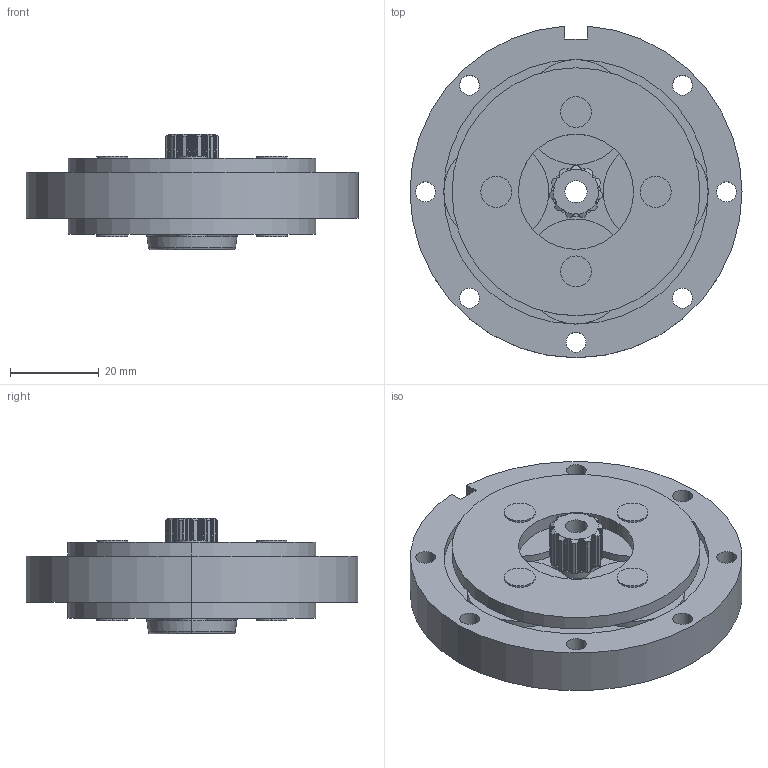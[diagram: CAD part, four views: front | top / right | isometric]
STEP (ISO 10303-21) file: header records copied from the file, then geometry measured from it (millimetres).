
FILE_DESCRIPTION (( 'STEP AP203' ), '1' );
FILE_NAME ('LGU75-5SLD.step', '2021-07-23T02:26:44', ( '' ), ( '' ), 'SwSTEP 2.0', 'SolidWorks 2021', '' );
FILE_SCHEMA (( 'CONFIG_CONTROL_DESIGN' ));
Length unit declared in the file: millimetre
Products named in the file (1): LGU75-5SLD
Bounding box: 75 x 74.92 x 26.15 mm (x, y, z)
Volume: 55836.3 mm3; surface area: 24857.4 mm2
Topology: 1 solids, 1 shells, 459 faces, 1273 edges, 840 vertices
Faces by surface type: cylinder 390, plane 51, cone 14, torus 4
Entity records: 15331 total; most frequent: CARTESIAN_POINT 2909, DIRECTION 2840, ORIENTED_EDGE 2546, EDGE_CURVE 1273, AXIS2_PLACEMENT_3D 1219, VERTEX_POINT 840, CIRCLE 759, EDGE_LOOP 515
